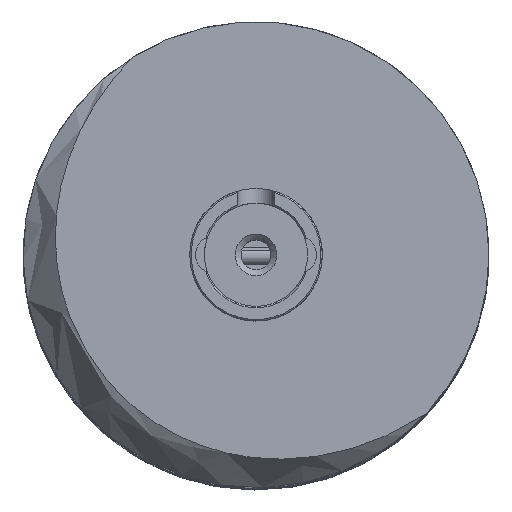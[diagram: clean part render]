
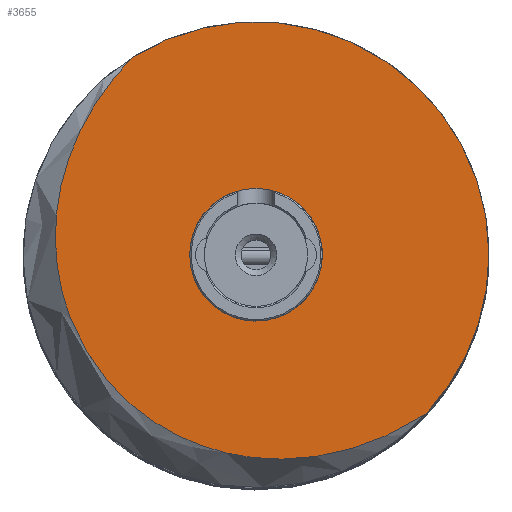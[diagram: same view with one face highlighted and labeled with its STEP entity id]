
A CAD part, top view. The second image highlights one B-rep face of the part: STEP entity #3655.
In plain terms, the highlighted planar face has unit normal (0, 0, 1).
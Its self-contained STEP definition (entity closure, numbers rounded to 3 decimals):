
#179=PLANE('',#4106);
#263=FACE_BOUND('',#547,.T.);
#338=FACE_OUTER_BOUND('',#546,.T.);
#546=EDGE_LOOP('',(#2573,#2574,#2575,#2576));
#547=EDGE_LOOP('',(#2577,#2578));
#785=CIRCLE('',#4083,79.);
#792=CIRCLE('',#4099,22.5);
#793=CIRCLE('',#4100,22.5);
#797=CIRCLE('',#4107,79.);
#1072=B_SPLINE_CURVE_WITH_KNOTS('',3,(#12546,#12547,#12548,#12549,#12550,
#12551,#12552,#12553,#12554,#12555),.UNSPECIFIED.,.F.,.F.,(4,2,2,2,4),(-12.579,
-8.734,-5.762,-2.877,0.),.UNSPECIFIED.);
#1075=B_SPLINE_CURVE_WITH_KNOTS('',3,(#12682,#12683,#12684,#12685,#12686,
#12687,#12688,#12689,#12690,#12691),.UNSPECIFIED.,.F.,.F.,(4,2,2,2,4),(-8.082,
-6.249,-4.455,-2.454,-0.087),
 .UNSPECIFIED.);
#1521=VERTEX_POINT('',#9939);
#1523=VERTEX_POINT('',#9942);
#1545=VERTEX_POINT('',#12545);
#1552=VERTEX_POINT('',#12634);
#1553=VERTEX_POINT('',#12635);
#1557=VERTEX_POINT('',#12681);
#1922=EDGE_CURVE('',#1521,#1523,#785,.T.);
#1952=EDGE_CURVE('',#1523,#1545,#1072,.T.);
#1963=EDGE_CURVE('',#1552,#1553,#792,.T.);
#1964=EDGE_CURVE('',#1553,#1552,#793,.T.);
#1971=EDGE_CURVE('',#1545,#1557,#1075,.T.);
#1972=EDGE_CURVE('',#1557,#1521,#797,.T.);
#2573=ORIENTED_EDGE('',*,*,#1971,.F.);
#2574=ORIENTED_EDGE('',*,*,#1952,.F.);
#2575=ORIENTED_EDGE('',*,*,#1922,.F.);
#2576=ORIENTED_EDGE('',*,*,#1972,.F.);
#2577=ORIENTED_EDGE('',*,*,#1963,.T.);
#2578=ORIENTED_EDGE('',*,*,#1964,.T.);
#3655=ADVANCED_FACE('',(#338,#263),#179,.F.);
#4083=AXIS2_PLACEMENT_3D('',#9943,#4574,#4575);
#4099=AXIS2_PLACEMENT_3D('',#12636,#4614,#4615);
#4100=AXIS2_PLACEMENT_3D('',#12637,#4616,#4617);
#4106=AXIS2_PLACEMENT_3D('',#12680,#4630,#4631);
#4107=AXIS2_PLACEMENT_3D('',#12692,#4632,#4633);
#4574=DIRECTION('center_axis',(0.,0.,-1.));
#4575=DIRECTION('ref_axis',(1.,0.,0.));
#4614=DIRECTION('center_axis',(0.,0.,-1.));
#4615=DIRECTION('ref_axis',(-1.,0.,0.));
#4616=DIRECTION('center_axis',(0.,0.,-1.));
#4617=DIRECTION('ref_axis',(-1.,0.,0.));
#4630=DIRECTION('center_axis',(0.,0.,-1.));
#4631=DIRECTION('ref_axis',(-1.,0.,0.));
#4632=DIRECTION('center_axis',(0.,0.,-1.));
#4633=DIRECTION('ref_axis',(1.,0.,0.));
#9939=CARTESIAN_POINT('',(-79.,0.,628.));
#9942=CARTESIAN_POINT('',(-57.625,54.041,628.));
#9943=CARTESIAN_POINT('Origin',(0.,0.,628.));
#12545=CARTESIAN_POINT('',(50.68,42.279,628.));
#12546=CARTESIAN_POINT('Ctrl Pts',(-57.625,54.041,628.));
#12547=CARTESIAN_POINT('Ctrl Pts',(-50.785,58.417,628.));
#12548=CARTESIAN_POINT('Ctrl Pts',(-40.85,63.772,628.));
#12549=CARTESIAN_POINT('Ctrl Pts',(-18.641,69.239,628.));
#12550=CARTESIAN_POINT('Ctrl Pts',(-8.695,69.946,628.));
#12551=CARTESIAN_POINT('Ctrl Pts',(10.77,67.67,628.));
#12552=CARTESIAN_POINT('Ctrl Pts',(20.036,64.819,628.));
#12553=CARTESIAN_POINT('Ctrl Pts',(37.034,55.738,628.));
#12554=CARTESIAN_POINT('Ctrl Pts',(44.536,49.642,628.));
#12555=CARTESIAN_POINT('Ctrl Pts',(50.68,42.279,628.));
#12634=CARTESIAN_POINT('',(-22.5,0.,628.));
#12635=CARTESIAN_POINT('',(22.5,0.,628.));
#12636=CARTESIAN_POINT('Origin',(0.,0.,628.));
#12637=CARTESIAN_POINT('Origin',(0.,0.,628.));
#12680=CARTESIAN_POINT('Origin',(0.,0.,628.));
#12681=CARTESIAN_POINT('',(42.022,-66.896,628.));
#12682=CARTESIAN_POINT('Ctrl Pts',(50.68,42.279,628.));
#12683=CARTESIAN_POINT('Ctrl Pts',(56.586,35.204,628.));
#12684=CARTESIAN_POINT('Ctrl Pts',(61.114,27.106,628.));
#12685=CARTESIAN_POINT('Ctrl Pts',(66.957,9.788,628.));
#12686=CARTESIAN_POINT('Ctrl Pts',(68.269,0.8,628.));
#12687=CARTESIAN_POINT('Ctrl Pts',(67.743,-18.306,628.));
#12688=CARTESIAN_POINT('Ctrl Pts',(65.52,-28.89,628.));
#12689=CARTESIAN_POINT('Ctrl Pts',(55.261,-51.88,628.));
#12690=CARTESIAN_POINT('Ctrl Pts',(47.681,-61.013,628.));
#12691=CARTESIAN_POINT('Ctrl Pts',(42.022,-66.896,628.));
#12692=CARTESIAN_POINT('Origin',(0.,0.,628.));
